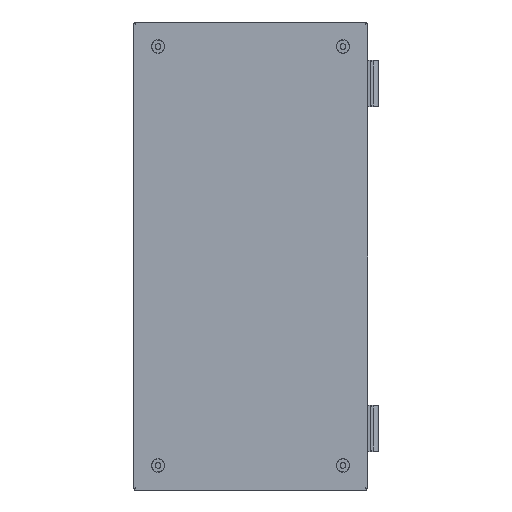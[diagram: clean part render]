
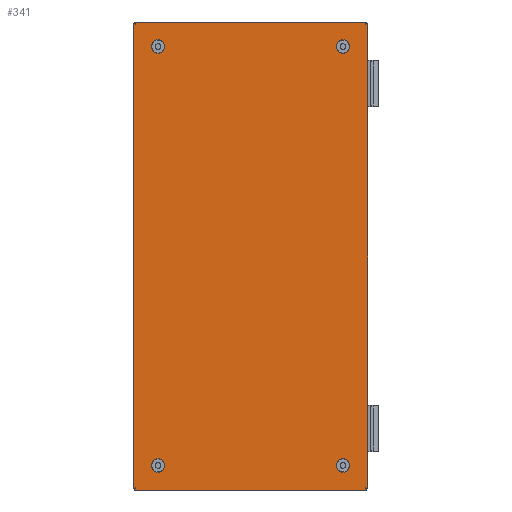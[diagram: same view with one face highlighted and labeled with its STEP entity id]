
A CAD part, front view. The second image highlights one B-rep face of the part: STEP entity #341.
In plain terms, the highlighted planar face has unit normal (0, -1, 0).
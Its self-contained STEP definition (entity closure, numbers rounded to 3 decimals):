
#341 = ADVANCED_FACE('',(#342,#362,#373,#393,#404),#526,.T.);
#342 = FACE_BOUND('',#343,.T.);
#343 = EDGE_LOOP('',(#344,#355));
#344 = ORIENTED_EDGE('',*,*,#345,.F.);
#345 = EDGE_CURVE('',#346,#348,#350,.T.);
#346 = VERTEX_POINT('',#347);
#347 = CARTESIAN_POINT('',(-79.,-1.2,-175.));
#348 = VERTEX_POINT('',#349);
#349 = CARTESIAN_POINT('',(-79.,-1.2,-183.));
#350 = CIRCLE('',#351,4.);
#351 = AXIS2_PLACEMENT_3D('',#352,#353,#354);
#352 = CARTESIAN_POINT('',(-79.,-1.2,-179.));
#353 = DIRECTION('',(0.,-1.,0.));
#354 = DIRECTION('',(0.,0.,1.));
#355 = ORIENTED_EDGE('',*,*,#356,.F.);
#356 = EDGE_CURVE('',#348,#346,#357,.T.);
#357 = CIRCLE('',#358,4.);
#358 = AXIS2_PLACEMENT_3D('',#359,#360,#361);
#359 = CARTESIAN_POINT('',(-79.,-1.2,-179.));
#360 = DIRECTION('',(0.,-1.,0.));
#361 = DIRECTION('',(0.,0.,1.));
#362 = FACE_BOUND('',#363,.T.);
#363 = EDGE_LOOP('',(#364));
#364 = ORIENTED_EDGE('',*,*,#365,.F.);
#365 = EDGE_CURVE('',#366,#366,#368,.T.);
#366 = VERTEX_POINT('',#367);
#367 = CARTESIAN_POINT('',(79.,-1.2,-183.));
#368 = CIRCLE('',#369,4.);
#369 = AXIS2_PLACEMENT_3D('',#370,#371,#372);
#370 = CARTESIAN_POINT('',(79.,-1.2,-179.));
#371 = DIRECTION('',(0.,-1.,0.));
#372 = DIRECTION('',(0.,0.,-1.));
#373 = FACE_BOUND('',#374,.T.);
#374 = EDGE_LOOP('',(#375,#386));
#375 = ORIENTED_EDGE('',*,*,#376,.F.);
#376 = EDGE_CURVE('',#377,#379,#381,.T.);
#377 = VERTEX_POINT('',#378);
#378 = CARTESIAN_POINT('',(79.,-1.2,183.));
#379 = VERTEX_POINT('',#380);
#380 = CARTESIAN_POINT('',(79.,-1.2,175.));
#381 = CIRCLE('',#382,4.);
#382 = AXIS2_PLACEMENT_3D('',#383,#384,#385);
#383 = CARTESIAN_POINT('',(79.,-1.2,179.));
#384 = DIRECTION('',(0.,-1.,0.));
#385 = DIRECTION('',(0.,0.,1.));
#386 = ORIENTED_EDGE('',*,*,#387,.F.);
#387 = EDGE_CURVE('',#379,#377,#388,.T.);
#388 = CIRCLE('',#389,4.);
#389 = AXIS2_PLACEMENT_3D('',#390,#391,#392);
#390 = CARTESIAN_POINT('',(79.,-1.2,179.));
#391 = DIRECTION('',(0.,-1.,0.));
#392 = DIRECTION('',(0.,0.,1.));
#393 = FACE_BOUND('',#394,.T.);
#394 = EDGE_LOOP('',(#395));
#395 = ORIENTED_EDGE('',*,*,#396,.F.);
#396 = EDGE_CURVE('',#397,#397,#399,.T.);
#397 = VERTEX_POINT('',#398);
#398 = CARTESIAN_POINT('',(-79.,-1.2,175.));
#399 = CIRCLE('',#400,4.);
#400 = AXIS2_PLACEMENT_3D('',#401,#402,#403);
#401 = CARTESIAN_POINT('',(-79.,-1.2,179.));
#402 = DIRECTION('',(0.,-1.,0.));
#403 = DIRECTION('',(0.,0.,-1.));
#404 = FACE_BOUND('',#405,.T.);
#405 = EDGE_LOOP('',(#406,#419,#430,#438,#449,#460,#468,#479,#490,#498,
    #509,#520));
#406 = ORIENTED_EDGE('',*,*,#407,.F.);
#407 = EDGE_CURVE('',#408,#410,#412,.T.);
#408 = VERTEX_POINT('',#409);
#409 = CARTESIAN_POINT('',(-98.2,-1.2,198.2));
#410 = VERTEX_POINT('',#411);
#411 = CARTESIAN_POINT('',(-98.574,-1.2,200.));
#412 = B_SPLINE_CURVE_WITH_KNOTS('',3,(#413,#414,#415,#416,#417,#418),
  .UNSPECIFIED.,.F.,.F.,(4,2,4),(0.004,0.005,
    0.006),.UNSPECIFIED.);
#413 = CARTESIAN_POINT('',(-98.2,-1.2,198.2));
#414 = CARTESIAN_POINT('',(-98.287,-1.2,198.495));
#415 = CARTESIAN_POINT('',(-98.371,-1.2,198.79));
#416 = CARTESIAN_POINT('',(-98.498,-1.2,199.39));
#417 = CARTESIAN_POINT('',(-98.543,-1.2,199.695));
#418 = CARTESIAN_POINT('',(-98.574,-1.2,200.));
#419 = ORIENTED_EDGE('',*,*,#420,.T.);
#420 = EDGE_CURVE('',#408,#421,#423,.T.);
#421 = VERTEX_POINT('',#422);
#422 = CARTESIAN_POINT('',(-100.,-1.2,198.574));
#423 = B_SPLINE_CURVE_WITH_KNOTS('',3,(#424,#425,#426,#427,#428,#429),
  .UNSPECIFIED.,.F.,.F.,(4,2,4),(0.004,0.005,
    0.006),.UNSPECIFIED.);
#424 = CARTESIAN_POINT('',(-98.2,-1.2,198.2));
#425 = CARTESIAN_POINT('',(-98.495,-1.2,198.287));
#426 = CARTESIAN_POINT('',(-98.79,-1.2,198.371));
#427 = CARTESIAN_POINT('',(-99.39,-1.2,198.498));
#428 = CARTESIAN_POINT('',(-99.695,-1.2,198.543));
#429 = CARTESIAN_POINT('',(-100.,-1.2,198.574));
#430 = ORIENTED_EDGE('',*,*,#431,.T.);
#431 = EDGE_CURVE('',#421,#432,#434,.T.);
#432 = VERTEX_POINT('',#433);
#433 = CARTESIAN_POINT('',(-100.,-1.2,-198.574));
#434 = LINE('',#435,#436);
#435 = CARTESIAN_POINT('',(-100.,-1.2,2200.));
#436 = VECTOR('',#437,1.);
#437 = DIRECTION('',(0.,0.,-1.));
#438 = ORIENTED_EDGE('',*,*,#439,.F.);
#439 = EDGE_CURVE('',#440,#432,#442,.T.);
#440 = VERTEX_POINT('',#441);
#441 = CARTESIAN_POINT('',(-98.2,-1.2,-198.2));
#442 = B_SPLINE_CURVE_WITH_KNOTS('',3,(#443,#444,#445,#446,#447,#448),
  .UNSPECIFIED.,.F.,.F.,(4,2,4),(0.004,0.005,
    0.006),.UNSPECIFIED.);
#443 = CARTESIAN_POINT('',(-98.2,-1.2,-198.2));
#444 = CARTESIAN_POINT('',(-98.495,-1.2,-198.287));
#445 = CARTESIAN_POINT('',(-98.79,-1.2,-198.371));
#446 = CARTESIAN_POINT('',(-99.39,-1.2,-198.498));
#447 = CARTESIAN_POINT('',(-99.695,-1.2,-198.543));
#448 = CARTESIAN_POINT('',(-100.,-1.2,-198.574));
#449 = ORIENTED_EDGE('',*,*,#450,.T.);
#450 = EDGE_CURVE('',#440,#451,#453,.T.);
#451 = VERTEX_POINT('',#452);
#452 = CARTESIAN_POINT('',(-98.574,-1.2,-200.));
#453 = B_SPLINE_CURVE_WITH_KNOTS('',3,(#454,#455,#456,#457,#458,#459),
  .UNSPECIFIED.,.F.,.F.,(4,2,4),(0.004,0.005,
    0.006),.UNSPECIFIED.);
#454 = CARTESIAN_POINT('',(-98.2,-1.2,-198.2));
#455 = CARTESIAN_POINT('',(-98.287,-1.2,-198.495));
#456 = CARTESIAN_POINT('',(-98.371,-1.2,-198.79));
#457 = CARTESIAN_POINT('',(-98.498,-1.2,-199.39));
#458 = CARTESIAN_POINT('',(-98.543,-1.2,-199.695));
#459 = CARTESIAN_POINT('',(-98.574,-1.2,-200.));
#460 = ORIENTED_EDGE('',*,*,#461,.T.);
#461 = EDGE_CURVE('',#451,#462,#464,.T.);
#462 = VERTEX_POINT('',#463);
#463 = CARTESIAN_POINT('',(98.574,-1.2,-200.));
#464 = LINE('',#465,#466);
#465 = CARTESIAN_POINT('',(-2100.,-1.2,-200.));
#466 = VECTOR('',#467,1.);
#467 = DIRECTION('',(1.,0.,0.));
#468 = ORIENTED_EDGE('',*,*,#469,.F.);
#469 = EDGE_CURVE('',#470,#462,#472,.T.);
#470 = VERTEX_POINT('',#471);
#471 = CARTESIAN_POINT('',(98.2,-1.2,-198.2));
#472 = B_SPLINE_CURVE_WITH_KNOTS('',3,(#473,#474,#475,#476,#477,#478),
  .UNSPECIFIED.,.F.,.F.,(4,2,4),(0.004,0.005,
    0.006),.UNSPECIFIED.);
#473 = CARTESIAN_POINT('',(98.2,-1.2,-198.2));
#474 = CARTESIAN_POINT('',(98.287,-1.2,-198.495));
#475 = CARTESIAN_POINT('',(98.371,-1.2,-198.79));
#476 = CARTESIAN_POINT('',(98.498,-1.2,-199.39));
#477 = CARTESIAN_POINT('',(98.543,-1.2,-199.695));
#478 = CARTESIAN_POINT('',(98.574,-1.2,-200.));
#479 = ORIENTED_EDGE('',*,*,#480,.T.);
#480 = EDGE_CURVE('',#470,#481,#483,.T.);
#481 = VERTEX_POINT('',#482);
#482 = CARTESIAN_POINT('',(100.,-1.2,-198.574));
#483 = B_SPLINE_CURVE_WITH_KNOTS('',3,(#484,#485,#486,#487,#488,#489),
  .UNSPECIFIED.,.F.,.F.,(4,2,4),(0.004,0.005,
    0.006),.UNSPECIFIED.);
#484 = CARTESIAN_POINT('',(98.2,-1.2,-198.2));
#485 = CARTESIAN_POINT('',(98.495,-1.2,-198.287));
#486 = CARTESIAN_POINT('',(98.79,-1.2,-198.371));
#487 = CARTESIAN_POINT('',(99.39,-1.2,-198.498));
#488 = CARTESIAN_POINT('',(99.695,-1.2,-198.543));
#489 = CARTESIAN_POINT('',(100.,-1.2,-198.574));
#490 = ORIENTED_EDGE('',*,*,#491,.T.);
#491 = EDGE_CURVE('',#481,#492,#494,.T.);
#492 = VERTEX_POINT('',#493);
#493 = CARTESIAN_POINT('',(100.,-1.2,198.574));
#494 = LINE('',#495,#496);
#495 = CARTESIAN_POINT('',(100.,-1.2,-2200.));
#496 = VECTOR('',#497,1.);
#497 = DIRECTION('',(0.,0.,1.));
#498 = ORIENTED_EDGE('',*,*,#499,.F.);
#499 = EDGE_CURVE('',#500,#492,#502,.T.);
#500 = VERTEX_POINT('',#501);
#501 = CARTESIAN_POINT('',(98.2,-1.2,198.2));
#502 = B_SPLINE_CURVE_WITH_KNOTS('',3,(#503,#504,#505,#506,#507,#508),
  .UNSPECIFIED.,.F.,.F.,(4,2,4),(0.004,0.005,
    0.006),.UNSPECIFIED.);
#503 = CARTESIAN_POINT('',(98.2,-1.2,198.2));
#504 = CARTESIAN_POINT('',(98.495,-1.2,198.287));
#505 = CARTESIAN_POINT('',(98.79,-1.2,198.371));
#506 = CARTESIAN_POINT('',(99.39,-1.2,198.498));
#507 = CARTESIAN_POINT('',(99.695,-1.2,198.543));
#508 = CARTESIAN_POINT('',(100.,-1.2,198.574));
#509 = ORIENTED_EDGE('',*,*,#510,.T.);
#510 = EDGE_CURVE('',#500,#511,#513,.T.);
#511 = VERTEX_POINT('',#512);
#512 = CARTESIAN_POINT('',(98.574,-1.2,200.));
#513 = B_SPLINE_CURVE_WITH_KNOTS('',3,(#514,#515,#516,#517,#518,#519),
  .UNSPECIFIED.,.F.,.F.,(4,2,4),(0.004,0.005,
    0.006),.UNSPECIFIED.);
#514 = CARTESIAN_POINT('',(98.2,-1.2,198.2));
#515 = CARTESIAN_POINT('',(98.287,-1.2,198.495));
#516 = CARTESIAN_POINT('',(98.371,-1.2,198.79));
#517 = CARTESIAN_POINT('',(98.498,-1.2,199.39));
#518 = CARTESIAN_POINT('',(98.543,-1.2,199.695));
#519 = CARTESIAN_POINT('',(98.574,-1.2,200.));
#520 = ORIENTED_EDGE('',*,*,#521,.T.);
#521 = EDGE_CURVE('',#511,#410,#522,.T.);
#522 = LINE('',#523,#524);
#523 = CARTESIAN_POINT('',(2100.,-1.2,200.));
#524 = VECTOR('',#525,1.);
#525 = DIRECTION('',(-1.,0.,0.));
#526 = PLANE('',#527);
#527 = AXIS2_PLACEMENT_3D('',#528,#529,#530);
#528 = CARTESIAN_POINT('',(0.,-1.2,0.));
#529 = DIRECTION('',(0.,-1.,0.));
#530 = DIRECTION('',(0.,-0.,-1.));
